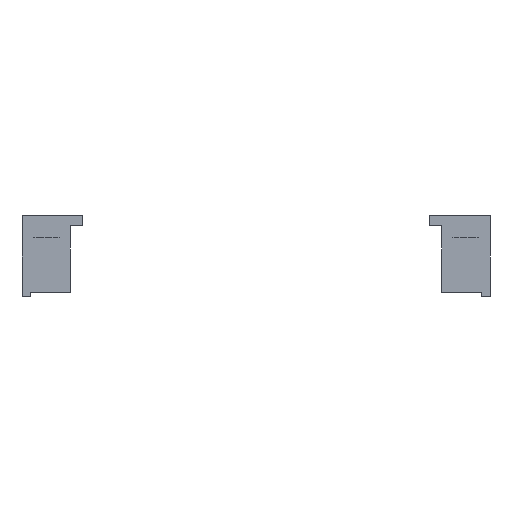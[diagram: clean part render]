
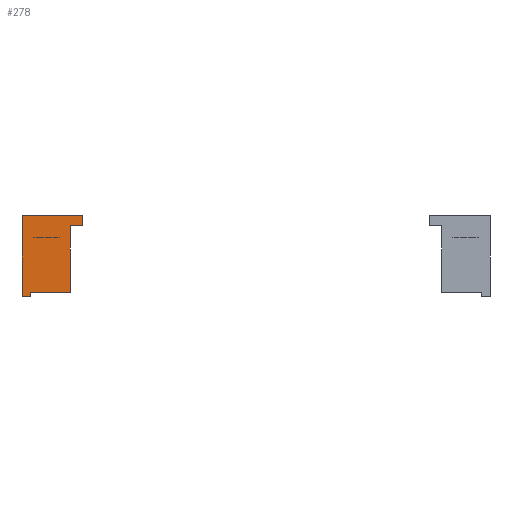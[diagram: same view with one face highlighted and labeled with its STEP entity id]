
A CAD part, front view. The second image highlights one B-rep face of the part: STEP entity #278.
In plain terms, the highlighted planar face has unit normal (0, -1, 0).
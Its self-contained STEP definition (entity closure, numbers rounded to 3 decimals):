
#56=FACE_OUTER_BOUND('',#74,.T.);
#74=EDGE_LOOP('',(#217,#218,#219,#220,#221,#222,#223,#224));
#97=LINE('',#434,#121);
#101=LINE('',#441,#125);
#108=LINE('',#460,#132);
#109=LINE('',#462,#133);
#110=LINE('',#464,#134);
#111=LINE('',#466,#135);
#112=LINE('',#468,#136);
#113=LINE('',#469,#137);
#121=VECTOR('',#349,10.);
#125=VECTOR('',#355,10.);
#132=VECTOR('',#370,10.);
#133=VECTOR('',#371,10.);
#134=VECTOR('',#372,10.);
#135=VECTOR('',#373,10.);
#136=VECTOR('',#374,10.);
#137=VECTOR('',#375,10.);
#145=VERTEX_POINT('',#431);
#146=VERTEX_POINT('',#433);
#148=VERTEX_POINT('',#439);
#156=VERTEX_POINT('',#459);
#157=VERTEX_POINT('',#461);
#158=VERTEX_POINT('',#463);
#159=VERTEX_POINT('',#465);
#160=VERTEX_POINT('',#467);
#169=EDGE_CURVE('',#146,#145,#97,.T.);
#173=EDGE_CURVE('',#145,#148,#101,.T.);
#182=EDGE_CURVE('',#148,#156,#108,.T.);
#183=EDGE_CURVE('',#156,#157,#109,.T.);
#184=EDGE_CURVE('',#157,#158,#110,.T.);
#185=EDGE_CURVE('',#158,#159,#111,.T.);
#186=EDGE_CURVE('',#160,#159,#112,.T.);
#187=EDGE_CURVE('',#146,#160,#113,.T.);
#217=ORIENTED_EDGE('',*,*,#169,.T.);
#218=ORIENTED_EDGE('',*,*,#173,.T.);
#219=ORIENTED_EDGE('',*,*,#182,.T.);
#220=ORIENTED_EDGE('',*,*,#183,.T.);
#221=ORIENTED_EDGE('',*,*,#184,.T.);
#222=ORIENTED_EDGE('',*,*,#185,.T.);
#223=ORIENTED_EDGE('',*,*,#186,.F.);
#224=ORIENTED_EDGE('',*,*,#187,.F.);
#266=PLANE('',#318);
#278=ADVANCED_FACE('',(#56),#266,.T.);
#318=AXIS2_PLACEMENT_3D('',#458,#368,#369);
#349=DIRECTION('',(0.,0.,1.));
#355=DIRECTION('',(1.,0.,0.));
#368=DIRECTION('center_axis',(0.,-1.,0.));
#369=DIRECTION('ref_axis',(0.,0.,-1.));
#370=DIRECTION('',(0.,0.,1.));
#371=DIRECTION('',(1.,0.,0.));
#372=DIRECTION('',(0.,0.,1.));
#373=DIRECTION('',(-1.,0.,0.));
#374=DIRECTION('',(0.,0.,1.));
#375=DIRECTION('',(-1.,0.,0.));
#431=CARTESIAN_POINT('',(-8.,0.,1.));
#433=CARTESIAN_POINT('',(-8.,0.,0.));
#434=CARTESIAN_POINT('',(-8.,0.,0.));
#439=CARTESIAN_POINT('',(2.,0.,1.));
#441=CARTESIAN_POINT('',(-1.5,0.,1.));
#458=CARTESIAN_POINT('Origin',(5.,0.,0.));
#459=CARTESIAN_POINT('',(2.,0.,17.4));
#460=CARTESIAN_POINT('',(2.,0.,8.7));
#461=CARTESIAN_POINT('',(5.,0.,17.4));
#462=CARTESIAN_POINT('',(5.,0.,17.4));
#463=CARTESIAN_POINT('',(5.,0.,19.9));
#464=CARTESIAN_POINT('',(5.,0.,0.));
#465=CARTESIAN_POINT('',(-10.,0.,19.9));
#466=CARTESIAN_POINT('',(5.,0.,19.9));
#467=CARTESIAN_POINT('',(-10.,0.,0.));
#468=CARTESIAN_POINT('',(-10.,0.,0.));
#469=CARTESIAN_POINT('',(5.,0.,0.));
